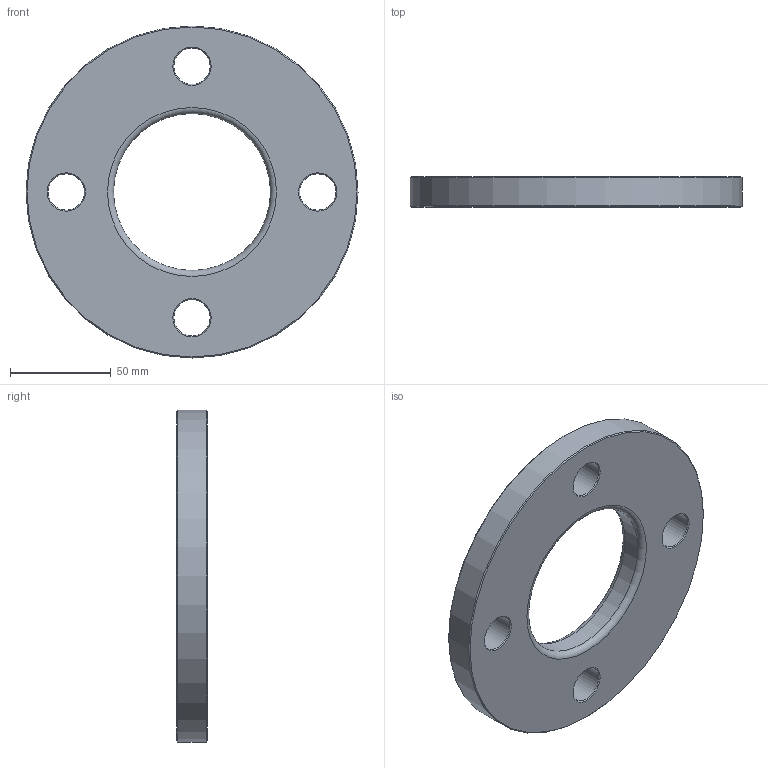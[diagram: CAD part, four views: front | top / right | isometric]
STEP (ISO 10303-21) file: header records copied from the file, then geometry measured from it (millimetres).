
FILE_DESCRIPTION(/* description */ ('Unknown'),/* implementation_level */ '2;1');
FILE_NAME(/* name */ 'FZ063C',/* time_stamp */ '2021-03-15T11:44:54+01:00',/* author */ ('Unknown'),/* organization */ ('Unknown'),/* preprocessor_version */ 'ST-DEVELOPER v16.7',/* originating_system */ 'Solid Edge',/* authorisation */ 'Unknown');
FILE_SCHEMA (('AUTOMOTIVE_DESIGN {1 0 10303 214 3 1 1}'));
Length unit declared in the file: millimetre
Products named in the file (1): FZ063C
Bounding box: 165 x 15 x 165 mm (x, y, z)
Volume: 232643.6 mm3; surface area: 44959.2 mm2
Topology: 1 solids, 1 shells, 20 faces, 54 edges, 36 vertices
Faces by surface type: cone 10, cylinder 6, plane 2, torus 2
Full cylindrical faces by diameter (mm): 18 x4, 78 x1, 165 x1
Entity records: 494 total; most frequent: DIRECTION 90, CARTESIAN_POINT 69, ORIENTED_EDGE 48, EDGE_LOOP 48, FACE_BOUND 48, AXIS2_PLACEMENT_3D 45, EDGE_CURVE 24, VERTEX_POINT 24
